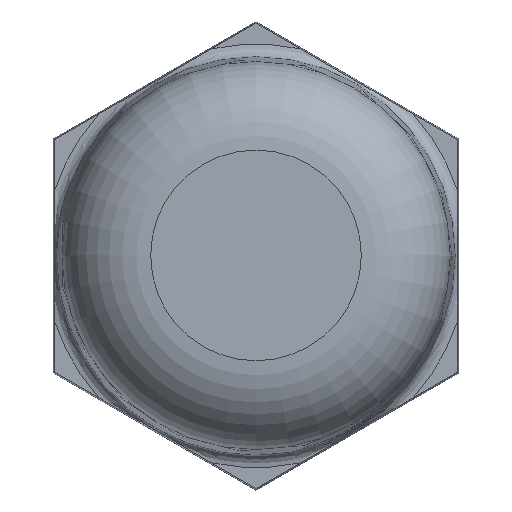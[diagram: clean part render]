
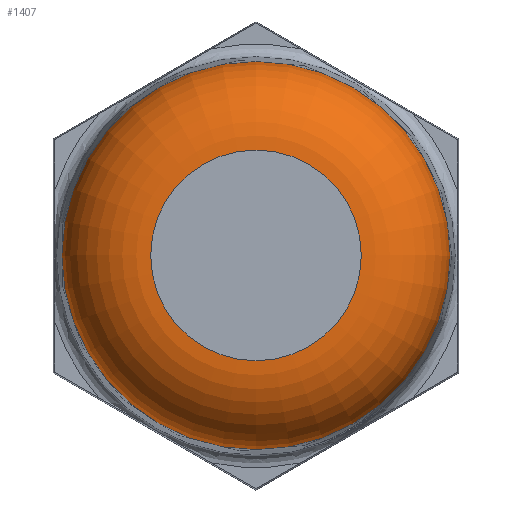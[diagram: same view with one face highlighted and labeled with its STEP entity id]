
A CAD part, top view. The second image highlights one B-rep face of the part: STEP entity #1407.
In plain terms, the highlighted toroidal (fillet/blend) face has major radius 8.316 mm and minor radius 7 mm.
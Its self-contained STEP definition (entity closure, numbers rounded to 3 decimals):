
#866=CARTESIAN_POINT('',(15.313,0.,19.52));
#867=VERTEX_POINT('',#866);
#868=CARTESIAN_POINT('',(0.,0.,19.52));
#869=DIRECTION('',(0.0,0.0,1.0));
#870=DIRECTION('',(-1.0,0.0,0.0));
#871=AXIS2_PLACEMENT_3D('',#868,#869,#870);
#872=CIRCLE('',#871,15.313);
#873=EDGE_CURVE('',#867,#867,#872,.T.);
#1388=CARTESIAN_POINT('',(0.,0.,19.3));
#1389=DIRECTION('',(0.,0.,-1.0));
#1390=DIRECTION('',(-1.0,0.0,0.0));
#1391=AXIS2_PLACEMENT_3D('',#1388,#1389,#1390);
#1392=TOROIDAL_SURFACE('',#1391,8.316,7.);
#1393=CARTESIAN_POINT('',(8.316,0.,26.3));
#1394=VERTEX_POINT('',#1393);
#1395=CARTESIAN_POINT('',(0.,0.,26.3));
#1396=DIRECTION('',(0.0,0.0,-1.0));
#1397=DIRECTION('',(-1.0,0.0,0.0));
#1398=AXIS2_PLACEMENT_3D('',#1395,#1396,#1397);
#1399=CIRCLE('',#1398,8.316);
#1400=EDGE_CURVE('',#1394,#1394,#1399,.T.);
#1401=ORIENTED_EDGE('',*,*,#1400,.T.);
#1402=EDGE_LOOP('',(#1401));
#1403=FACE_OUTER_BOUND('',#1402,.T.);
#1404=ORIENTED_EDGE('',*,*,#873,.T.);
#1405=EDGE_LOOP('',(#1404));
#1406=FACE_BOUND('',#1405,.T.);
#1407=ADVANCED_FACE('',(#1403,#1406),#1392,.T.);
